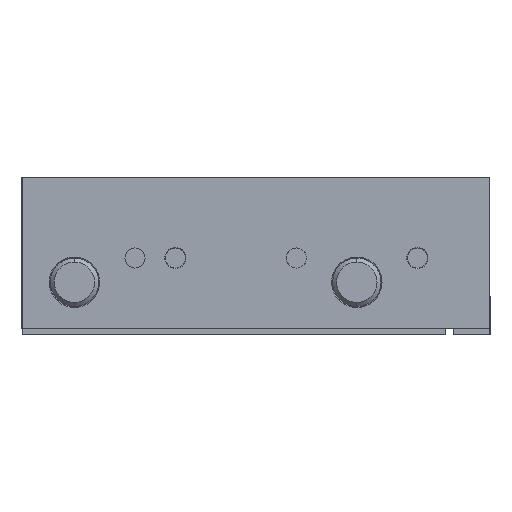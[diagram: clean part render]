
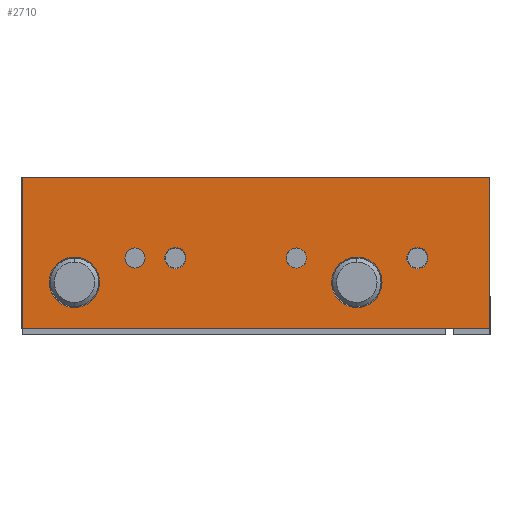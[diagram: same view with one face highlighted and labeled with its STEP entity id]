
A CAD part, front view. The second image highlights one B-rep face of the part: STEP entity #2710.
In plain terms, the highlighted planar face has unit normal (0, -1, 0).
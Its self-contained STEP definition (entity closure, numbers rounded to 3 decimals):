
#1550 = VERTEX_POINT ( 'NONE', #5574 ) ;
#1552 = EDGE_CURVE ( 'NONE', #1550, #1553, #5573, .T. ) ;
#1553 = VERTEX_POINT ( 'NONE', #5568 ) ;
#2450 = VERTEX_POINT ( 'NONE', #7458 ) ;
#2452 = EDGE_CURVE ( 'NONE', #2450, #2453, #7457, .T. ) ;
#2453 = VERTEX_POINT ( 'NONE', #7452 ) ;
#2483 = VERTEX_POINT ( 'NONE', #7772 ) ;
#2485 = EDGE_CURVE ( 'NONE', #2483, #2486, #7771, .T. ) ;
#2486 = VERTEX_POINT ( 'NONE', #7766 ) ;
#2517 = VERTEX_POINT ( 'NONE', #7832 ) ;
#2518 = VERTEX_POINT ( 'NONE', #7831 ) ;
#2549 = VERTEX_POINT ( 'NONE', #7928 ) ;
#2551 = EDGE_CURVE ( 'NONE', #2549, #2552, #7927, .T. ) ;
#2552 = VERTEX_POINT ( 'NONE', #7922 ) ;
#2575 = EDGE_CURVE ( 'NONE', #2517, #2518, #7967, .T. ) ;
#2614 = VERTEX_POINT ( 'NONE', #8029 ) ;
#2616 = EDGE_CURVE ( 'NONE', #2614, #2617, #8104, .T. ) ;
#2617 = VERTEX_POINT ( 'NONE', #8099 ) ;
#2642 = EDGE_CURVE ( 'NONE', #2617, #2614, #8132, .T. ) ;
#2650 = EDGE_CURVE ( 'NONE', #2552, #2549, #8165, .T. ) ;
#2671 = EDGE_CURVE ( 'NONE', #2702, #2672, #8180, .T. ) ;
#2672 = VERTEX_POINT ( 'NONE', #8176 ) ;
#2679 = VERTEX_POINT ( 'NONE', #8225 ) ;
#2700 = EDGE_CURVE ( 'NONE', #2701, #2702, #8256, .T. ) ;
#2701 = VERTEX_POINT ( 'NONE', #8252 ) ;
#2702 = VERTEX_POINT ( 'NONE', #8251 ) ;
#2710 = ADVANCED_FACE ( 'NONE', ( #8246, #8245, #8244, #8243, #8242, #8241, #8240 ), #8239, .T. ) ;
#2711 = EDGE_LOOP ( 'NONE', ( #2712, #2714 ) ) ;
#2712 = ORIENTED_EDGE ( 'NONE', *, *, #2713, .F. ) ;
#2713 = EDGE_CURVE ( 'NONE', #1553, #1550, #8234, .T. ) ;
#2714 = ORIENTED_EDGE ( 'NONE', *, *, #1552, .F. ) ;
#2715 = EDGE_LOOP ( 'NONE', ( #2716, #2718 ) ) ;
#2716 = ORIENTED_EDGE ( 'NONE', *, *, #2717, .F. ) ;
#2717 = EDGE_CURVE ( 'NONE', #2453, #2450, #8297, .T. ) ;
#2718 = ORIENTED_EDGE ( 'NONE', *, *, #2452, .F. ) ;
#2731 = EDGE_CURVE ( 'NONE', #2679, #2701, #8277, .T. ) ;
#2733 = EDGE_CURVE ( 'NONE', #2672, #2679, #8273, .T. ) ;
#2760 = ORIENTED_EDGE ( 'NONE', *, *, #2575, .F. ) ;
#2761 = EDGE_LOOP ( 'NONE', ( #2762, #2763, #2764, #2765 ) ) ;
#2762 = ORIENTED_EDGE ( 'NONE', *, *, #2700, .F. ) ;
#2763 = ORIENTED_EDGE ( 'NONE', *, *, #2731, .F. ) ;
#2764 = ORIENTED_EDGE ( 'NONE', *, *, #2733, .F. ) ;
#2765 = ORIENTED_EDGE ( 'NONE', *, *, #2671, .F. ) ;
#2772 = EDGE_LOOP ( 'NONE', ( #2773, #2775 ) ) ;
#2773 = ORIENTED_EDGE ( 'NONE', *, *, #2774, .F. ) ;
#2774 = EDGE_CURVE ( 'NONE', #2486, #2483, #8380, .T. ) ;
#2775 = ORIENTED_EDGE ( 'NONE', *, *, #2485, .F. ) ;
#2776 = EDGE_LOOP ( 'NONE', ( #2777, #2778 ) ) ;
#2777 = ORIENTED_EDGE ( 'NONE', *, *, #2642, .F. ) ;
#2778 = ORIENTED_EDGE ( 'NONE', *, *, #2616, .F. ) ;
#2779 = EDGE_LOOP ( 'NONE', ( #2780, #2781 ) ) ;
#2780 = ORIENTED_EDGE ( 'NONE', *, *, #2650, .F. ) ;
#2781 = ORIENTED_EDGE ( 'NONE', *, *, #2551, .F. ) ;
#2782 = EDGE_LOOP ( 'NONE', ( #2783, #2760 ) ) ;
#2783 = ORIENTED_EDGE ( 'NONE', *, *, #2784, .F. ) ;
#2784 = EDGE_CURVE ( 'NONE', #2518, #2517, #8375, .T. ) ;
#5568 = CARTESIAN_POINT ( 'NONE',  ( 83., 0., -32.25 ) ) ;
#5569 = DIRECTION ( 'NONE',  ( 0., 0., -1. ) ) ;
#5570 = DIRECTION ( 'NONE',  ( 0., -1., 0. ) ) ;
#5571 = CARTESIAN_POINT ( 'NONE',  ( 83., 0., -26. ) ) ;
#5572 = AXIS2_PLACEMENT_3D ( 'NONE', #5571, #5570, #5569 ) ;
#5573 = CIRCLE ( 'NONE', #5572, 6.25 ) ;
#5574 = CARTESIAN_POINT ( 'NONE',  ( 83., 0., -19.75 ) ) ;
#7452 = CARTESIAN_POINT ( 'NONE',  ( 98., 0., -22.625 ) ) ;
#7453 = DIRECTION ( 'NONE',  ( 0., 0., -1. ) ) ;
#7454 = DIRECTION ( 'NONE',  ( 0., -1., 0. ) ) ;
#7455 = CARTESIAN_POINT ( 'NONE',  ( 98., 0., -20. ) ) ;
#7456 = AXIS2_PLACEMENT_3D ( 'NONE', #7455, #7454, #7453 ) ;
#7457 = CIRCLE ( 'NONE', #7456, 2.625 ) ;
#7458 = CARTESIAN_POINT ( 'NONE',  ( 98., 0., -17.375 ) ) ;
#7766 = CARTESIAN_POINT ( 'NONE',  ( 38., 0., -22.625 ) ) ;
#7767 = DIRECTION ( 'NONE',  ( 0., 0., -1. ) ) ;
#7768 = DIRECTION ( 'NONE',  ( 0., -1., 0. ) ) ;
#7769 = CARTESIAN_POINT ( 'NONE',  ( 38., 0., -20. ) ) ;
#7770 = AXIS2_PLACEMENT_3D ( 'NONE', #7769, #7768, #7767 ) ;
#7771 = CIRCLE ( 'NONE', #7770, 2.625 ) ;
#7772 = CARTESIAN_POINT ( 'NONE',  ( 38., 0., -17.375 ) ) ;
#7831 = CARTESIAN_POINT ( 'NONE',  ( 13., 0., -32.25 ) ) ;
#7832 = CARTESIAN_POINT ( 'NONE',  ( 13., 0., -19.75 ) ) ;
#7922 = CARTESIAN_POINT ( 'NONE',  ( 28., 0., -22.5 ) ) ;
#7923 = DIRECTION ( 'NONE',  ( 0., 0., -1. ) ) ;
#7924 = DIRECTION ( 'NONE',  ( 0., -1., 0. ) ) ;
#7925 = CARTESIAN_POINT ( 'NONE',  ( 28., 0., -20. ) ) ;
#7926 = AXIS2_PLACEMENT_3D ( 'NONE', #7925, #7924, #7923 ) ;
#7927 = CIRCLE ( 'NONE', #7926, 2.5 ) ;
#7928 = CARTESIAN_POINT ( 'NONE',  ( 28., 0., -17.5 ) ) ;
#7967 = CIRCLE ( 'NONE', #8028, 6.25 ) ;
#8025 = DIRECTION ( 'NONE',  ( 0., 0., -1. ) ) ;
#8026 = DIRECTION ( 'NONE',  ( 0., -1., 0. ) ) ;
#8027 = CARTESIAN_POINT ( 'NONE',  ( 13., 0., -26. ) ) ;
#8028 = AXIS2_PLACEMENT_3D ( 'NONE', #8027, #8026, #8025 ) ;
#8029 = CARTESIAN_POINT ( 'NONE',  ( 68., 0., -17.5 ) ) ;
#8099 = CARTESIAN_POINT ( 'NONE',  ( 68., 0., -22.5 ) ) ;
#8100 = DIRECTION ( 'NONE',  ( 0., 0., -1. ) ) ;
#8101 = DIRECTION ( 'NONE',  ( 0., -1., 0. ) ) ;
#8102 = CARTESIAN_POINT ( 'NONE',  ( 68., 0., -20. ) ) ;
#8103 = AXIS2_PLACEMENT_3D ( 'NONE', #8102, #8101, #8100 ) ;
#8104 = CIRCLE ( 'NONE', #8103, 2.5 ) ;
#8123 = DIRECTION ( 'NONE',  ( 0., 0., -1. ) ) ;
#8124 = DIRECTION ( 'NONE',  ( 0., -1., 0. ) ) ;
#8125 = CARTESIAN_POINT ( 'NONE',  ( 68., 0., -20. ) ) ;
#8126 = AXIS2_PLACEMENT_3D ( 'NONE', #8125, #8124, #8123 ) ;
#8132 = CIRCLE ( 'NONE', #8126, 2.5 ) ;
#8162 = DIRECTION ( 'NONE',  ( 0., 0., -1. ) ) ;
#8163 = DIRECTION ( 'NONE',  ( 0., -1., 0. ) ) ;
#8164 = AXIS2_PLACEMENT_3D ( 'NONE', #8169, #8163, #8162 ) ;
#8165 = CIRCLE ( 'NONE', #8164, 2.5 ) ;
#8169 = CARTESIAN_POINT ( 'NONE',  ( 28., 0., -20. ) ) ;
#8176 = CARTESIAN_POINT ( 'NONE',  ( 116., 0., 0. ) ) ;
#8177 = DIRECTION ( 'NONE',  ( 1., 0., 0. ) ) ;
#8178 = VECTOR ( 'NONE', #8177, 1000. ) ;
#8179 = CARTESIAN_POINT ( 'NONE',  ( 0., 0., 0. ) ) ;
#8180 = LINE ( 'NONE', #8179, #8178 ) ;
#8225 = CARTESIAN_POINT ( 'NONE',  ( 116., 0., -37.5 ) ) ;
#8230 = DIRECTION ( 'NONE',  ( 0., 0., -1. ) ) ;
#8231 = DIRECTION ( 'NONE',  ( 0., -1., 0. ) ) ;
#8232 = CARTESIAN_POINT ( 'NONE',  ( 83., 0., -26. ) ) ;
#8233 = AXIS2_PLACEMENT_3D ( 'NONE', #8232, #8231, #8230 ) ;
#8234 = CIRCLE ( 'NONE', #8233, 6.25 ) ;
#8235 = DIRECTION ( 'NONE',  ( 0., 0., -1. ) ) ;
#8236 = DIRECTION ( 'NONE',  ( 0., -1., 0. ) ) ;
#8237 = CARTESIAN_POINT ( 'NONE',  ( 0., 0., -37.5 ) ) ;
#8238 = AXIS2_PLACEMENT_3D ( 'NONE', #8237, #8236, #8235 ) ;
#8239 = PLANE ( 'NONE',  #8238 ) ;
#8240 = FACE_OUTER_BOUND ( 'NONE', #2761, .T. ) ;
#8241 = FACE_BOUND ( 'NONE', #2782, .T. ) ;
#8242 = FACE_BOUND ( 'NONE', #2779, .T. ) ;
#8243 = FACE_BOUND ( 'NONE', #2776, .T. ) ;
#8244 = FACE_BOUND ( 'NONE', #2772, .T. ) ;
#8245 = FACE_BOUND ( 'NONE', #2715, .T. ) ;
#8246 = FACE_BOUND ( 'NONE', #2711, .T. ) ;
#8251 = CARTESIAN_POINT ( 'NONE',  ( 0., 0., 0. ) ) ;
#8252 = CARTESIAN_POINT ( 'NONE',  ( 0., 0., -37.5 ) ) ;
#8253 = DIRECTION ( 'NONE',  ( 0., 0., 1. ) ) ;
#8254 = VECTOR ( 'NONE', #8253, 1000. ) ;
#8255 = CARTESIAN_POINT ( 'NONE',  ( 0., 0., 0. ) ) ;
#8256 = LINE ( 'NONE', #8255, #8254 ) ;
#8270 = DIRECTION ( 'NONE',  ( 0., 0., -1. ) ) ;
#8271 = VECTOR ( 'NONE', #8270, 1000. ) ;
#8272 = CARTESIAN_POINT ( 'NONE',  ( 116., 0., 0. ) ) ;
#8273 = LINE ( 'NONE', #8272, #8271 ) ;
#8274 = DIRECTION ( 'NONE',  ( -1., 0., 0. ) ) ;
#8275 = VECTOR ( 'NONE', #8274, 1000. ) ;
#8276 = CARTESIAN_POINT ( 'NONE',  ( 0., 0., -37.5 ) ) ;
#8277 = LINE ( 'NONE', #8276, #8275 ) ;
#8293 = DIRECTION ( 'NONE',  ( 0., 0., -1. ) ) ;
#8294 = DIRECTION ( 'NONE',  ( 0., -1., 0. ) ) ;
#8295 = CARTESIAN_POINT ( 'NONE',  ( 98., 0., -20. ) ) ;
#8296 = AXIS2_PLACEMENT_3D ( 'NONE', #8295, #8294, #8293 ) ;
#8297 = CIRCLE ( 'NONE', #8296, 2.625 ) ;
#8371 = DIRECTION ( 'NONE',  ( 0., 0., -1. ) ) ;
#8372 = DIRECTION ( 'NONE',  ( 0., -1., 0. ) ) ;
#8373 = CARTESIAN_POINT ( 'NONE',  ( 13., 0., -26. ) ) ;
#8374 = AXIS2_PLACEMENT_3D ( 'NONE', #8373, #8372, #8371 ) ;
#8375 = CIRCLE ( 'NONE', #8374, 6.25 ) ;
#8376 = DIRECTION ( 'NONE',  ( 0., 0., -1. ) ) ;
#8377 = DIRECTION ( 'NONE',  ( 0., -1., 0. ) ) ;
#8378 = CARTESIAN_POINT ( 'NONE',  ( 38., 0., -20. ) ) ;
#8379 = AXIS2_PLACEMENT_3D ( 'NONE', #8378, #8377, #8376 ) ;
#8380 = CIRCLE ( 'NONE', #8379, 2.625 ) ;
